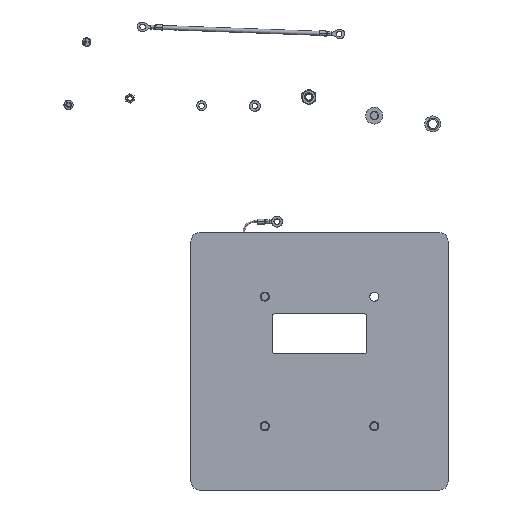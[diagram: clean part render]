
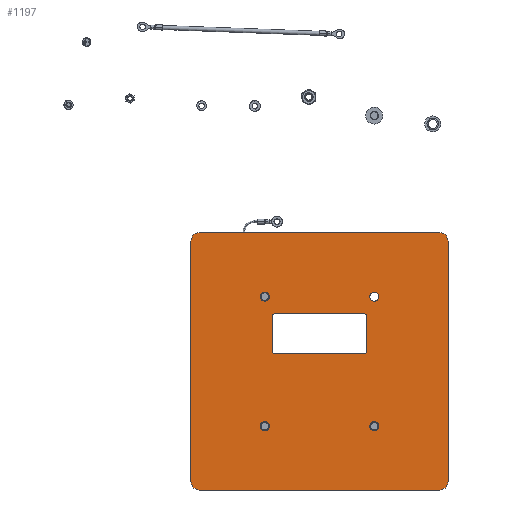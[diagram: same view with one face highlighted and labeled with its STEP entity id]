
A CAD part, front view. The second image highlights one B-rep face of the part: STEP entity #1197.
In plain terms, the highlighted planar face has unit normal (0, -1, 0).
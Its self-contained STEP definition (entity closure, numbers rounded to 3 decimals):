
#147=CARTESIAN_POINT('',(-113.,0.,113.));
#148=DIRECTION('',(0.,-1.,0.));
#149=DIRECTION('',(0.,0.,1.));
#150=AXIS2_PLACEMENT_3D('',#147,#148,#149);
#156=DIRECTION('',(1.,0.,0.));
#157=VECTOR('',#156,226.);
#158=CARTESIAN_POINT('',(-113.,0.,121.));
#159=LINE('',#158,#157);
#163=CARTESIAN_POINT('',(113.,0.,113.));
#164=DIRECTION('',(0.,-1.,0.));
#165=DIRECTION('',(1.,0.,0.));
#166=AXIS2_PLACEMENT_3D('',#163,#164,#165);
#171=DIRECTION('',(0.,0.,-1.));
#172=VECTOR('',#171,226.);
#173=CARTESIAN_POINT('',(121.,0.,113.));
#174=LINE('',#173,#172);
#178=CARTESIAN_POINT('',(113.,0.,-113.));
#179=DIRECTION('',(0.,-1.,0.));
#180=DIRECTION('',(0.,0.,-1.));
#181=AXIS2_PLACEMENT_3D('',#178,#179,#180);
#186=DIRECTION('',(-1.,0.,0.));
#187=VECTOR('',#186,226.);
#188=CARTESIAN_POINT('',(113.,0.,-121.));
#189=LINE('',#188,#187);
#193=CARTESIAN_POINT('',(-113.,0.,-113.));
#194=DIRECTION('',(0.,-1.,0.));
#195=DIRECTION('',(-1.,0.,0.));
#196=AXIS2_PLACEMENT_3D('',#193,#194,#195);
#201=DIRECTION('',(0.,0.,1.));
#202=VECTOR('',#201,226.);
#203=CARTESIAN_POINT('',(-121.,0.,-113.));
#204=LINE('',#203,#202);
#208=CARTESIAN_POINT('',(-51.5,0.,-61.));
#209=DIRECTION('',(0.,1.,0.));
#210=DIRECTION('',(1.,0.,0.));
#211=AXIS2_PLACEMENT_3D('',#208,#209,#210);
#216=CARTESIAN_POINT('',(-51.5,0.,-61.));
#217=DIRECTION('',(0.,1.,0.));
#218=DIRECTION('',(-1.,0.,0.));
#219=AXIS2_PLACEMENT_3D('',#216,#217,#218);
#224=CARTESIAN_POINT('',(51.5,0.,-61.));
#225=DIRECTION('',(0.,1.,0.));
#226=DIRECTION('',(1.,0.,0.));
#227=AXIS2_PLACEMENT_3D('',#224,#225,#226);
#232=CARTESIAN_POINT('',(51.5,0.,-61.));
#233=DIRECTION('',(0.,1.,0.));
#234=DIRECTION('',(-1.,0.,0.));
#235=AXIS2_PLACEMENT_3D('',#232,#233,#234);
#240=CARTESIAN_POINT('',(51.5,0.,61.));
#241=DIRECTION('',(0.,1.,0.));
#242=DIRECTION('',(1.,0.,0.));
#243=AXIS2_PLACEMENT_3D('',#240,#241,#242);
#248=CARTESIAN_POINT('',(51.5,0.,61.));
#249=DIRECTION('',(0.,1.,0.));
#250=DIRECTION('',(-1.,0.,0.));
#251=AXIS2_PLACEMENT_3D('',#248,#249,#250);
#256=CARTESIAN_POINT('',(-51.5,0.,61.));
#257=DIRECTION('',(0.,1.,0.));
#258=DIRECTION('',(1.,0.,0.));
#259=AXIS2_PLACEMENT_3D('',#256,#257,#258);
#264=CARTESIAN_POINT('',(-51.5,0.,61.));
#265=DIRECTION('',(0.,1.,0.));
#266=DIRECTION('',(-1.,0.,0.));
#267=AXIS2_PLACEMENT_3D('',#264,#265,#266);
#272=DIRECTION('',(-1.,0.,0.));
#273=VECTOR('',#272,83.);
#274=CARTESIAN_POINT('',(41.5,0.,7.));
#275=LINE('',#274,#273);
#279=DIRECTION('',(0.,0.,-1.));
#280=VECTOR('',#279,32.);
#281=CARTESIAN_POINT('',(44.5,0.,42.));
#282=LINE('',#281,#280);
#286=DIRECTION('',(1.,0.,0.));
#287=VECTOR('',#286,83.);
#288=CARTESIAN_POINT('',(-41.5,0.,45.));
#289=LINE('',#288,#287);
#293=DIRECTION('',(0.,0.,1.));
#294=VECTOR('',#293,32.);
#295=CARTESIAN_POINT('',(-44.5,0.,10.));
#296=LINE('',#295,#294);
#650=CARTESIAN_POINT('',(41.5,0.,10.));
#651=DIRECTION('',(0.,1.,0.));
#652=DIRECTION('',(1.,0.,0.));
#653=AXIS2_PLACEMENT_3D('',#650,#651,#652);
#680=CARTESIAN_POINT('',(-41.5,0.,10.));
#681=DIRECTION('',(0.,1.,0.));
#682=DIRECTION('',(0.,0.,-1.));
#683=AXIS2_PLACEMENT_3D('',#680,#681,#682);
#710=CARTESIAN_POINT('',(-41.5,0.,42.));
#711=DIRECTION('',(0.,1.,0.));
#712=DIRECTION('',(-1.,0.,0.));
#713=AXIS2_PLACEMENT_3D('',#710,#711,#712);
#740=CARTESIAN_POINT('',(41.5,0.,42.));
#741=DIRECTION('',(0.,1.,0.));
#742=DIRECTION('',(0.,0.,1.));
#743=AXIS2_PLACEMENT_3D('',#740,#741,#742);
#988=CARTESIAN_POINT('',(-113.,0.,121.));
#989=CARTESIAN_POINT('',(-121.,0.,113.));
#990=VERTEX_POINT('',#988);
#991=VERTEX_POINT('',#989);
#996=CARTESIAN_POINT('',(121.,0.,113.));
#997=CARTESIAN_POINT('',(113.,0.,121.));
#998=VERTEX_POINT('',#996);
#999=VERTEX_POINT('',#997);
#1004=CARTESIAN_POINT('',(-121.,0.,-113.));
#1005=CARTESIAN_POINT('',(-113.,0.,-121.));
#1006=VERTEX_POINT('',#1004);
#1007=VERTEX_POINT('',#1005);
#1012=CARTESIAN_POINT('',(113.,0.,-121.));
#1013=CARTESIAN_POINT('',(121.,0.,-113.));
#1014=VERTEX_POINT('',#1012);
#1015=VERTEX_POINT('',#1013);
#1036=CARTESIAN_POINT('',(-47.25,0.,-61.));
#1037=CARTESIAN_POINT('',(-55.75,0.,-61.));
#1038=VERTEX_POINT('',#1036);
#1039=VERTEX_POINT('',#1037);
#1040=CARTESIAN_POINT('',(55.75,0.,-61.));
#1041=CARTESIAN_POINT('',(47.25,0.,-61.));
#1042=VERTEX_POINT('',#1040);
#1043=VERTEX_POINT('',#1041);
#1044=CARTESIAN_POINT('',(55.75,0.,61.));
#1045=CARTESIAN_POINT('',(47.25,0.,61.));
#1046=VERTEX_POINT('',#1044);
#1047=VERTEX_POINT('',#1045);
#1048=CARTESIAN_POINT('',(-47.25,0.,61.));
#1049=CARTESIAN_POINT('',(-55.75,0.,61.));
#1050=VERTEX_POINT('',#1048);
#1051=VERTEX_POINT('',#1049);
#1069=CARTESIAN_POINT('',(-44.5,0.,10.));
#1071=VERTEX_POINT('',#1069);
#1073=CARTESIAN_POINT('',(-41.5,0.,7.));
#1075=VERTEX_POINT('',#1073);
#1077=CARTESIAN_POINT('',(41.5,0.,7.));
#1079=VERTEX_POINT('',#1077);
#1081=CARTESIAN_POINT('',(44.5,0.,10.));
#1083=VERTEX_POINT('',#1081);
#1085=CARTESIAN_POINT('',(44.5,0.,42.));
#1087=VERTEX_POINT('',#1085);
#1089=CARTESIAN_POINT('',(41.5,0.,45.));
#1091=VERTEX_POINT('',#1089);
#1093=CARTESIAN_POINT('',(-41.5,0.,45.));
#1095=VERTEX_POINT('',#1093);
#1097=CARTESIAN_POINT('',(-44.5,0.,42.));
#1099=VERTEX_POINT('',#1097);
#1132=CARTESIAN_POINT('',(0.,0.,0.));
#1133=DIRECTION('',(0.,1.,0.));
#1134=DIRECTION('',(1.,0.,0.));
#1135=AXIS2_PLACEMENT_3D('',#1132,#1133,#1134);
#1136=PLANE('',#1135);
#1138=ORIENTED_EDGE('',*,*,#1137,.F.);
#1140=ORIENTED_EDGE('',*,*,#1139,.T.);
#1142=ORIENTED_EDGE('',*,*,#1141,.F.);
#1144=ORIENTED_EDGE('',*,*,#1143,.T.);
#1146=ORIENTED_EDGE('',*,*,#1145,.F.);
#1148=ORIENTED_EDGE('',*,*,#1147,.T.);
#1150=ORIENTED_EDGE('',*,*,#1149,.F.);
#1152=ORIENTED_EDGE('',*,*,#1151,.T.);
#1153=EDGE_LOOP('',(#1138,#1140,#1142,#1144,#1146,#1148,#1150,#1152));
#1154=FACE_OUTER_BOUND('',#1153,.F.);
#1156=ORIENTED_EDGE('',*,*,#1155,.F.);
#1158=ORIENTED_EDGE('',*,*,#1157,.F.);
#1159=EDGE_LOOP('',(#1156,#1158));
#1160=FACE_BOUND('',#1159,.F.);
#1162=ORIENTED_EDGE('',*,*,#1161,.F.);
#1164=ORIENTED_EDGE('',*,*,#1163,.F.);
#1165=EDGE_LOOP('',(#1162,#1164));
#1166=FACE_BOUND('',#1165,.F.);
#1168=ORIENTED_EDGE('',*,*,#1167,.F.);
#1170=ORIENTED_EDGE('',*,*,#1169,.F.);
#1171=EDGE_LOOP('',(#1168,#1170));
#1172=FACE_BOUND('',#1171,.F.);
#1174=ORIENTED_EDGE('',*,*,#1173,.F.);
#1176=ORIENTED_EDGE('',*,*,#1175,.F.);
#1177=EDGE_LOOP('',(#1174,#1176));
#1178=FACE_BOUND('',#1177,.F.);
#1180=ORIENTED_EDGE('',*,*,#1179,.F.);
#1182=ORIENTED_EDGE('',*,*,#1181,.F.);
#1184=ORIENTED_EDGE('',*,*,#1183,.F.);
#1186=ORIENTED_EDGE('',*,*,#1185,.F.);
#1188=ORIENTED_EDGE('',*,*,#1187,.F.);
#1190=ORIENTED_EDGE('',*,*,#1189,.F.);
#1192=ORIENTED_EDGE('',*,*,#1191,.F.);
#1194=ORIENTED_EDGE('',*,*,#1193,.F.);
#1195=EDGE_LOOP('',(#1180,#1182,#1184,#1186,#1188,#1190,#1192,#1194));
#1196=FACE_BOUND('',#1195,.F.);
#151=CIRCLE('',#150,8.);
#167=CIRCLE('',#166,8.);
#182=CIRCLE('',#181,8.);
#197=CIRCLE('',#196,8.);
#212=CIRCLE('',#211,4.25);
#220=CIRCLE('',#219,4.25);
#228=CIRCLE('',#227,4.25);
#236=CIRCLE('',#235,4.25);
#244=CIRCLE('',#243,4.25);
#252=CIRCLE('',#251,4.25);
#260=CIRCLE('',#259,4.25);
#268=CIRCLE('',#267,4.25);
#654=CIRCLE('',#653,3.);
#684=CIRCLE('',#683,3.);
#714=CIRCLE('',#713,3.);
#744=CIRCLE('',#743,3.);
#1137=EDGE_CURVE('',#990,#991,#151,.T.);
#1139=EDGE_CURVE('',#990,#999,#159,.T.);
#1141=EDGE_CURVE('',#998,#999,#167,.T.);
#1143=EDGE_CURVE('',#998,#1015,#174,.T.);
#1145=EDGE_CURVE('',#1014,#1015,#182,.T.);
#1147=EDGE_CURVE('',#1014,#1007,#189,.T.);
#1149=EDGE_CURVE('',#1006,#1007,#197,.T.);
#1151=EDGE_CURVE('',#1006,#991,#204,.T.);
#1155=EDGE_CURVE('',#1038,#1039,#212,.T.);
#1157=EDGE_CURVE('',#1039,#1038,#220,.T.);
#1161=EDGE_CURVE('',#1042,#1043,#228,.T.);
#1163=EDGE_CURVE('',#1043,#1042,#236,.T.);
#1167=EDGE_CURVE('',#1046,#1047,#244,.T.);
#1169=EDGE_CURVE('',#1047,#1046,#252,.T.);
#1173=EDGE_CURVE('',#1050,#1051,#260,.T.);
#1175=EDGE_CURVE('',#1051,#1050,#268,.T.);
#1179=EDGE_CURVE('',#1079,#1075,#275,.T.);
#1181=EDGE_CURVE('',#1083,#1079,#654,.T.);
#1183=EDGE_CURVE('',#1087,#1083,#282,.T.);
#1185=EDGE_CURVE('',#1091,#1087,#744,.T.);
#1187=EDGE_CURVE('',#1095,#1091,#289,.T.);
#1189=EDGE_CURVE('',#1099,#1095,#714,.T.);
#1191=EDGE_CURVE('',#1071,#1099,#296,.T.);
#1193=EDGE_CURVE('',#1075,#1071,#684,.T.);
#1197=ADVANCED_FACE('',(#1154,#1160,#1166,#1172,#1178,#1196),#1136,.F.);
